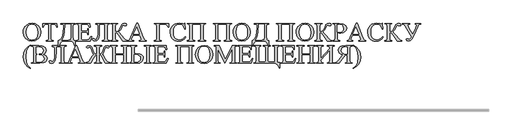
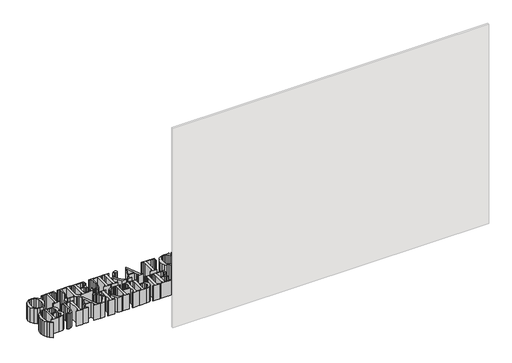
# One storey, part 5 of 17: 1 proxy.
"""IFC4 building model written with IfcOpenShell, lengths in millimetres."""

from ifc_helpers import new_model, si_unit, origin, origin_with_axes, place, context, project, spatial, polyline, outline, extrude, element, save

model = new_model("IFC4")

# Units and contexts
model_context = context("Model", 3, world=origin())
ifc_project = project(units=[si_unit("LENGTHUNIT", "METRE", prefix="MILLI")], contexts=[model_context])

# Site, building, storey
site = spatial("IfcSite", under=ifc_project)
building = spatial("IfcBuilding", under=site)
storey = spatial("IfcBuildingStorey", under=building, Name="Уровень 1", Elevation=0.0)

# Proxy
placement = place(None, origin())
element("IfcBuildingElementProxy", 1, Name="SG_Текст 2", ObjectType="SG_Текст 2", at=placement, inside=storey, context=model_context, shape_type="SweptSolid", body=[
    extrude(outline(polyline([(-694.4542029, -7381.9568321), (-666.748358, -7387.4175486), (-643.0048009, -7403.7996979), (-626.682991, -7428.3477804), (-621.2423877, -7458.3062966), (-626.7232173, -7489.1145927), (-643.165706, -7514.2007017), (-667.3919784, -7530.8694632), (-696.2241589, -7536.425717), (-725.2021597, -7531.0052268), (-749.1418199, -7514.7437563), (-765.2071873, -7489.8738636), (-770.5623098, -7458.6281067), (-769.0161124, -7441.8562654), (-764.3775204, -7426.6985033), (-756.6465337, -7413.1548203), (-745.8231524, -7401.2252165), (-722.2405004, -7386.7739282), (-694.4542029, -7381.9568321)]), holes=[polyline([(-696.5861954, -7389.6802764), (-715.0299411, -7393.3609803), (-729.4108334, -7404.403092), (-740.9658301, -7427.0002003), (-744.8174956, -7458.1051652), (-740.8250381, -7490.1453909), (-728.8476656, -7513.8587783), (-714.6176218, -7524.9913991), (-696.4655165, -7528.7022727), (-676.8552089, -7524.6394193), (-660.9859445, -7512.4508588), (-650.4868875, -7491.5030276), (-646.9872019, -7461.1623619), (-650.8388674, -7428.0159137), (-662.3938641, -7404.5237708), (-677.1166797, -7393.39115), (-696.5861954, -7389.6802764)])]), origin_with_axes(), (0.0, 0.0, 1.0), 150.0),
    extrude(outline(polyline([(-482.2203913, -7384.5313135), (-479.6459099, -7417.9995719), (-483.8294422, -7417.9995719), (-487.2486753, -7404.7249021), (-496.6012836, -7395.2918413), (-512.028059, -7392.2547578), (-533.7100196, -7392.2547578), (-533.7100196, -7508.1064214), (-530.813728, -7526.369149), (-518.1826786, -7531.2767542), (-513.1141683, -7531.2767542), (-513.1141683, -7533.8512356), (-574.9017223, -7533.8512356), (-574.9017223, -7531.2767542), (-569.7527594, -7531.2767542), (-561.8784667, -7529.7582124), (-556.679221, -7525.2025871), (-554.3058709, -7508.1064214), (-554.3058709, -7392.2547578), (-572.1663357, -7392.2547578), (-586.9696039, -7393.7833561), (-596.744588, -7401.8487237), (-601.5717407, -7417.9995719), (-605.7954992, -7417.9995719), (-603.2210178, -7384.5313135), (-482.2203913, -7384.5313135)])), origin_with_axes(), (0.0, 0.0, 1.0), 150.0),
    extrude(outline(polyline([(-448.7521329, -7384.5313135), (-325.1770251, -7384.5313135), (-325.1770251, -7389.6802764), (-342.0921725, -7394.06494), (-345.7728764, -7412.6494777), (-345.7728764, -7494.8719779), (-343.0173767, -7524.3578354), (-337.179539, -7528.5815939), (-325.1770251, -7529.9895135), (-325.1770251, -7577.6174196), (-330.3259879, -7577.6174196), (-340.6038004, -7550.8468355), (-348.1763961, -7542.374177), (-356.6943092, -7537.2704687), (-378.235478, -7533.8512356), (-415.0827432, -7533.8512356), (-436.0506875, -7537.3006384), (-450.6025415, -7547.6488469), (-459.6735658, -7562.0397957), (-464.1990214, -7577.6174196), (-469.3479843, -7577.6174196), (-469.3479843, -7529.9895135), (-453.9966332, -7523.9455161), (-441.813101, -7508.8707206), (-432.837614, -7487.047968), (-427.1103986, -7460.7600992), (-423.0073188, -7413.9769447), (-425.8633841, -7397.8864359), (-432.641511, -7391.4301192), (-448.7521329, -7389.6802764), (-448.7521329, -7384.5313135)]), holes=[polyline([(-410.1349117, -7392.2547578), (-414.0971995, -7448.1743043), (-420.5132899, -7484.4734866), (-429.4636355, -7508.1315628), (-441.0286887, -7526.1277913), (-386.6427688, -7526.1277913), (-369.2449061, -7523.5331968), (-366.3687277, -7506.6180494), (-366.3687277, -7392.2547578), (-410.1349117, -7392.2547578)])]), origin_with_axes(), (0.0, 0.0, 1.0), 150.0),
    extrude(outline(polyline([(-276.2618782, -7392.2547578), (-276.2618782, -7451.4678303), (-240.2191384, -7451.4678303), (-223.3643304, -7447.8072396), (-218.949497, -7441.1598481), (-217.0488056, -7430.871979), (-214.4743242, -7430.871979), (-214.4743242, -7479.7871259), (-217.0488056, -7479.7871259), (-220.1060023, -7466.8342663), (-226.5019796, -7461.2227013), (-240.2191384, -7459.1912746), (-276.2618782, -7459.1912746), (-276.2618782, -7509.1523045), (-275.3366739, -7521.3810912), (-272.098459, -7524.8405506), (-263.3492448, -7526.1277913), (-236.7999052, -7526.1277913), (-217.5114078, -7524.2773828), (-205.9463545, -7516.9562013), (-191.3039915, -7495.2340144), (-186.1550287, -7495.2340144), (-199.7515086, -7533.8512356), (-317.4535808, -7533.8512356), (-317.4535808, -7531.2767542), (-312.3448443, -7531.2767542), (-302.6905389, -7528.6218202), (-298.0846308, -7523.1309341), (-296.8577295, -7508.1064214), (-296.8577295, -7410.2761277), (-299.6333423, -7391.7720425), (-312.3448443, -7387.105795), (-317.4535808, -7387.105795), (-317.4535808, -7384.5313135), (-201.6019172, -7384.5313135), (-199.0274357, -7417.9995719), (-204.1763986, -7417.9995719), (-209.4460402, -7401.0240851), (-218.0142362, -7393.9844875), (-234.0242925, -7392.2547578), (-276.2618782, -7392.2547578)])), origin_with_axes(), (0.0, 0.0, 1.0), 150.0),
    extrude(outline(polyline([(-72.8778464, -7392.2547578), (-119.2185119, -7392.2547578), (-119.2185119, -7434.4521172), (-122.0041812, -7487.1233922), (-130.3611893, -7517.3785771), (-143.6157459, -7531.663932), (-161.0940612, -7536.425717), (-173.926242, -7532.4433161), (-178.4315844, -7523.1912735), (-175.5352928, -7516.2120153), (-168.4956952, -7513.2553843), (-160.5711196, -7516.915975), (-151.5202084, -7520.9788285), (-142.6855134, -7516.9813427), (-135.650944, -7504.9888853), (-131.0500642, -7481.843694), (-129.5164376, -7444.3880064), (-129.5164376, -7412.9310616), (-133.1971414, -7394.1051663), (-150.1122889, -7389.6802764), (-150.1122889, -7384.5313135), (-31.6861438, -7384.5313135), (-31.6861438, -7387.105795), (-48.6012912, -7391.5105717), (-52.2819951, -7410.2761277), (-52.2819951, -7508.1064214), (-48.6012912, -7526.8719774), (-31.6861438, -7531.2767542), (-31.6861438, -7533.8512356), (-93.4736977, -7533.8512356), (-93.4736977, -7531.2767542), (-76.5585503, -7526.8719774), (-72.8778464, -7508.1064214), (-72.8778464, -7392.2547578)])), origin_with_axes(), (0.0, 0.0, 1.0), 150.0),
    extrude(outline(polyline([(121.4150478, -7529.7481558), (121.4150478, -7533.8512356), (82.4357901, -7533.8512356), (55.6450929, -7496.0184267), (30.7450305, -7465.0441971), (17.2290031, -7461.765756), (17.2290031, -7508.1064214), (20.8493676, -7526.8719774), (37.8248544, -7531.2767542), (37.8248544, -7533.8512356), (-23.9626996, -7533.8512356), (-23.9626996, -7531.2767542), (-7.0877784, -7526.9122036), (-3.3668482, -7508.1064214), (-3.3668482, -7410.2761277), (-7.0475521, -7391.5105717), (-23.9626996, -7387.105795), (-23.9626996, -7384.5313135), (37.8248544, -7384.5313135), (37.8248544, -7387.105795), (20.8493676, -7391.5105717), (17.2290031, -7410.2761277), (17.2290031, -7454.0423117), (34.1039242, -7452.4131477), (44.6432075, -7445.4942289), (53.9153632, -7433.8487231), (62.6846905, -7413.3333244), (70.8908501, -7394.7085604), (81.1083232, -7385.7179886), (97.8424524, -7381.9568321), (110.7550857, -7385.0542551), (115.0592968, -7394.3465239), (111.6601768, -7401.9090631), (103.8763932, -7405.1271649), (93.3773362, -7401.0643114), (84.3666512, -7397.4037206), (78.2120316, -7401.1447639), (70.0460983, -7420.2120169), (57.8575379, -7443.5935375), (42.6922333, -7456.5363406), (53.3924217, -7465.3257811), (69.3220254, -7485.0969938), (98.4056202, -7520.6570183), (108.8644509, -7527.3345795), (121.4150478, -7529.7481558)])), origin_with_axes(), (0.0, 0.0, 1.0), 150.0),
    extrude(outline(polyline([(226.6872019, -7484.9360887), (168.4395599, -7484.9360887), (158.8254809, -7507.301896), (155.0844376, -7521.2201861), (158.3427656, -7527.6563897), (172.4219608, -7531.2767542), (172.4219608, -7533.8512356), (124.9549598, -7533.8512356), (124.9549598, -7531.2767542), (137.1032939, -7526.6105066), (149.6136646, -7503.2390425), (201.9882708, -7381.9568321), (207.4992701, -7381.9568321), (256.6557746, -7505.2101298), (268.1202622, -7525.92666), (282.440815, -7531.2767542), (282.440815, -7533.8512356), (223.4288739, -7533.8512356), (223.4288739, -7531.2767542), (235.5168686, -7527.9580867), (238.674631, -7521.059281), (234.2497411, -7503.9228891), (226.6872019, -7484.9360887)]), holes=[polyline([(223.5897789, -7477.2126445), (198.7299428, -7416.5916524), (171.7783405, -7477.2126445), (223.5897789, -7477.2126445)])]), origin_with_axes(), (0.0, 0.0, 1.0), 150.0),
    extrude(outline(polyline([(472.2685931, -7384.5313135), (472.9122134, -7417.9995719), (467.7632506, -7417.9995719), (462.9964374, -7401.6878186), (452.5174935, -7393.9040349), (434.5765761, -7392.2547578), (390.5288082, -7392.2547578), (390.5288082, -7508.1064214), (394.1893989, -7526.8719774), (411.1246595, -7531.2767542), (411.1246595, -7533.8512356), (349.3371055, -7533.8512356), (349.3371055, -7531.2767542), (366.252253, -7526.8719774), (369.9329569, -7508.1064214), (369.9329569, -7410.2761277), (366.252253, -7391.5105717), (349.3371055, -7387.105795), (349.3371055, -7384.5313135), (472.2685931, -7384.5313135)])), origin_with_axes(), (0.0, 0.0, 1.0), 150.0),
    extrude(outline(polyline([(611.9342098, -7381.9568321), (614.5086912, -7433.4464604), (611.9342098, -7433.4464604), (603.8235877, -7413.4188052), (592.8468437, -7399.9178626), (579.2051092, -7392.2396729), (563.0995155, -7389.6802764), (549.2365365, -7391.5357132), (536.7714204, -7397.1020236), (526.2623068, -7406.7362157), (518.2673352, -7420.7952978), (513.2139098, -7439.0529971), (511.5294346, -7461.2830407), (513.1334572, -7479.9078047), (517.945525, -7495.8776347), (525.9857512, -7508.8103812), (537.2742488, -7518.3238945), (551.0919733, -7524.1768171), (566.71988, -7526.1277913), (592.0825445, -7520.4357738), (603.6224563, -7511.9329456), (616.2384209, -7497.8084958), (619.6576541, -7500.3829772), (607.5445179, -7516.57908), (593.5709166, -7527.7569554), (577.2641915, -7534.2585266), (558.151684, -7536.425717), (540.7110809, -7534.7236429), (525.3572157, -7529.6174204), (512.0900883, -7521.1070497), (500.9096988, -7509.1925308), (489.5658901, -7487.1284205), (485.7846205, -7461.4841721), (488.2836777, -7440.2597852), (495.7808491, -7420.8355241), (507.6626842, -7404.3980637), (523.3157324, -7392.134079), (541.668969, -7384.5011438), (561.6513697, -7381.9568321), (593.5105772, -7387.8700941), (600.1076858, -7389.6802764), (605.2968749, -7388.1114518), (609.3597284, -7381.9568321), (611.9342098, -7381.9568321)])), origin_with_axes(), (0.0, 0.0, 1.0), 150.0),
    extrude(outline(polyline([(748.3817248, -7392.2547578), (673.7217638, -7392.2547578), (673.7217638, -7508.1064214), (677.3421282, -7526.8719774), (694.3176151, -7531.2767542), (694.3176151, -7533.8512356), (632.5300611, -7533.8512356), (632.5300611, -7531.2767542), (649.4452085, -7526.8719774), (653.1259124, -7508.1064214), (653.1259124, -7410.2761277), (649.4452085, -7391.5105717), (632.5300611, -7387.105795), (632.5300611, -7384.5313135), (789.5734274, -7384.5313135), (789.5734274, -7387.105795), (772.65828, -7391.5105717), (768.9775761, -7410.2761277), (768.9775761, -7508.1064214), (772.65828, -7526.8719774), (789.5734274, -7531.2767542), (789.5734274, -7533.8512356), (727.7858735, -7533.8512356), (727.7858735, -7531.2767542), (744.6809077, -7526.9122036), (748.3817248, -7508.1064214), (748.3817248, -7392.2547578)])), origin_with_axes(), (0.0, 0.0, 1.0), 150.0),
    extrude(outline(polyline([(969.7871264, -7392.2547578), (895.1271654, -7392.2547578), (895.1271654, -7508.1064214), (898.7475299, -7526.8719774), (915.7230167, -7531.2767542), (915.7230167, -7533.8512356), (853.9354628, -7533.8512356), (853.9354628, -7531.2767542), (870.8506102, -7526.8719774), (874.5313141, -7508.1064214), (874.5313141, -7410.2761277), (870.8506102, -7391.5105717), (853.9354628, -7387.105795), (853.9354628, -7384.5313135), (1010.978829, -7384.5313135), (1010.978829, -7387.105795), (994.0636816, -7391.5105717), (990.3829777, -7410.2761277), (990.3829777, -7508.1064214), (994.0636816, -7526.8719774), (1010.978829, -7531.2767542), (1010.978829, -7533.8512356), (949.1912751, -7533.8512356), (949.1912751, -7531.2767542), (966.0863094, -7526.9122036), (969.7871264, -7508.1064214), (969.7871264, -7392.2547578)])), origin_with_axes(), (0.0, 0.0, 1.0), 150.0),
    extrude(outline(polyline([(1099.9593429, -7381.9568321), (1127.6651878, -7387.4175486), (1151.408745, -7403.7996979), (1167.7305549, -7428.3477804), (1173.1711582, -7458.3062966), (1167.6903286, -7489.1145927), (1151.2478399, -7514.2007017), (1127.0215675, -7530.8694632), (1098.189387, -7536.425717), (1069.2113862, -7531.0052268), (1045.271726, -7514.7437563), (1029.2063586, -7489.8738636), (1023.8512361, -7458.6281067), (1025.3974335, -7441.8562654), (1030.0360255, -7426.6985033), (1037.7670121, -7413.1548203), (1048.5903935, -7401.2252165), (1072.1730455, -7386.7739282), (1099.9593429, -7381.9568321)]), holes=[polyline([(1097.8273505, -7389.6802764), (1079.3836048, -7393.3609803), (1065.0027125, -7404.403092), (1053.4477158, -7427.0002003), (1049.5960503, -7458.1051652), (1053.5885078, -7490.1453909), (1065.5658803, -7513.8587783), (1079.795924, -7524.9913991), (1097.9480293, -7528.7022727), (1117.558337, -7524.6394193), (1133.4276013, -7512.4508588), (1143.9266583, -7491.5030276), (1147.426344, -7461.1623619), (1143.5746785, -7428.0159137), (1132.0196818, -7404.5237708), (1117.2968662, -7393.39115), (1097.8273505, -7389.6802764)])]), origin_with_axes(), (0.0, 0.0, 1.0), 150.0),
    extrude(outline(polyline([(1206.6394165, -7384.5313135), (1330.2145244, -7384.5313135), (1330.2145244, -7389.6802764), (1313.299377, -7394.06494), (1309.6186731, -7412.6494777), (1309.6186731, -7494.8719779), (1312.3741728, -7524.3578354), (1318.2120105, -7528.5815939), (1330.2145244, -7529.9895135), (1330.2145244, -7577.6174196), (1325.0655616, -7577.6174196), (1314.7877491, -7550.8468355), (1307.2151534, -7542.374177), (1298.6972403, -7537.2704687), (1277.1560715, -7533.8512356), (1240.3088063, -7533.8512356), (1219.340862, -7537.3006384), (1204.789008, -7547.6488469), (1195.7179837, -7562.0397957), (1191.1925281, -7577.6174196), (1186.0435652, -7577.6174196), (1186.0435652, -7529.9895135), (1201.3949163, -7523.9455161), (1213.5784485, -7508.8707206), (1222.5539354, -7487.047968), (1228.2811509, -7460.7600992), (1232.3842307, -7413.9769447), (1229.5281654, -7397.8864359), (1222.7500385, -7391.4301192), (1206.6394165, -7389.6802764), (1206.6394165, -7384.5313135)]), holes=[polyline([(1245.2566378, -7392.2547578), (1241.29435, -7448.1743043), (1234.8782596, -7484.4734866), (1225.927914, -7508.1315628), (1214.3628608, -7526.1277913), (1268.7487807, -7526.1277913), (1286.1466434, -7523.5331968), (1289.0228218, -7506.6180494), (1289.0228218, -7392.2547578), (1245.2566378, -7392.2547578)])]), origin_with_axes(), (0.0, 0.0, 1.0), 150.0),
    extrude(outline(polyline([(1510.4282235, -7392.2547578), (1435.7682624, -7392.2547578), (1435.7682624, -7508.1064214), (1439.3886269, -7526.8719774), (1456.3641137, -7531.2767542), (1456.3641137, -7533.8512356), (1394.5765598, -7533.8512356), (1394.5765598, -7531.2767542), (1411.4917072, -7526.8719774), (1415.1724111, -7508.1064214), (1415.1724111, -7410.2761277), (1411.4917072, -7391.5105717), (1394.5765598, -7387.105795), (1394.5765598, -7384.5313135), (1551.6199261, -7384.5313135), (1551.6199261, -7387.105795), (1534.7047787, -7391.5105717), (1531.0240748, -7410.2761277), (1531.0240748, -7508.1064214), (1534.7047787, -7526.8719774), (1551.6199261, -7531.2767542), (1551.6199261, -7533.8512356), (1489.8323721, -7533.8512356), (1489.8323721, -7531.2767542), (1506.7274064, -7526.9122036), (1510.4282235, -7508.1064214), (1510.4282235, -7392.2547578)])), origin_with_axes(), (0.0, 0.0, 1.0), 150.0),
    extrude(outline(polyline([(1640.60044, -7381.9568321), (1668.3062849, -7387.4175486), (1692.049842, -7403.7996979), (1708.3716519, -7428.3477804), (1713.8122552, -7458.3062966), (1708.3314256, -7489.1145927), (1691.8889369, -7514.2007017), (1667.6626645, -7530.8694632), (1638.830484, -7536.425717), (1609.8524832, -7531.0052268), (1585.912823, -7514.7437563), (1569.8474556, -7489.8738636), (1564.4923332, -7458.6281067), (1566.0385305, -7441.8562654), (1570.6771225, -7426.6985033), (1578.4081092, -7413.1548203), (1589.2314905, -7401.2252165), (1612.8141425, -7386.7739282), (1640.60044, -7381.9568321)]), holes=[polyline([(1638.4684475, -7389.6802764), (1620.0247018, -7393.3609803), (1605.6438095, -7404.403092), (1594.0888129, -7427.0002003), (1590.2371473, -7458.1051652), (1594.2296048, -7490.1453909), (1606.2069773, -7513.8587783), (1620.4370211, -7524.9913991), (1638.5891264, -7528.7022727), (1658.199434, -7524.6394193), (1674.0686984, -7512.4508588), (1684.5677554, -7491.5030276), (1688.067441, -7461.1623619), (1684.2157755, -7428.0159137), (1672.6607788, -7404.5237708), (1657.9379632, -7393.39115), (1638.4684475, -7389.6802764)])]), origin_with_axes(), (0.0, 0.0, 1.0), 150.0),
    extrude(outline(polyline([(1869.4879282, -7529.7481558), (1869.4879282, -7533.8512356), (1830.5086706, -7533.8512356), (1803.7179733, -7496.0184267), (1778.8179109, -7465.0441971), (1765.3018835, -7461.765756), (1765.3018835, -7508.1064214), (1768.922248, -7526.8719774), (1785.8977348, -7531.2767542), (1785.8977348, -7533.8512356), (1724.1101809, -7533.8512356), (1724.1101809, -7531.2767542), (1740.985102, -7526.9122036), (1744.7060322, -7508.1064214), (1744.7060322, -7410.2761277), (1741.0253283, -7391.5105717), (1724.1101809, -7387.105795), (1724.1101809, -7384.5313135), (1785.8977348, -7384.5313135), (1785.8977348, -7387.105795), (1768.922248, -7391.5105717), (1765.3018835, -7410.2761277), (1765.3018835, -7454.0423117), (1782.1768046, -7452.4131477), (1792.7160879, -7445.4942289), (1801.9882436, -7433.8487231), (1810.757571, -7413.3333244), (1818.9637305, -7394.7085604), (1829.1812036, -7385.7179886), (1845.9153328, -7381.9568321), (1858.8279661, -7385.0542551), (1863.1321772, -7394.3465239), (1859.7330572, -7401.9090631), (1851.9492736, -7405.1271649), (1841.4502166, -7401.0643114), (1832.4395316, -7397.4037206), (1826.284912, -7401.1447639), (1818.1189788, -7420.2120169), (1805.9304183, -7443.5935375), (1790.7651137, -7456.5363406), (1801.4653021, -7465.3257811), (1817.3949059, -7485.0969938), (1846.4785006, -7520.6570183), (1856.9373313, -7527.3345795), (1869.4879282, -7529.7481558)])), origin_with_axes(), (0.0, 0.0, 1.0), 150.0),
    extrude(outline(polyline([(1917.1962869, -7463.5759382), (1917.1962869, -7508.1064214), (1920.1730311, -7526.2484701), (1932.281139, -7531.2767542), (1937.7921383, -7531.2767542), (1937.7921383, -7533.8512356), (1876.0045843, -7533.8512356), (1876.0045843, -7531.2767542), (1881.435131, -7531.2767542), (1889.259141, -7529.6777598), (1894.4684432, -7524.8807769), (1896.6004356, -7508.1064214), (1896.6004356, -7410.2761277), (1893.7443703, -7392.134079), (1881.435131, -7387.105795), (1876.0045843, -7387.105795), (1876.0045843, -7384.5313135), (1932.9649856, -7384.5313135), (1965.8901893, -7388.6545064), (1976.9876121, -7394.1956754), (1986.1843436, -7402.5727966), (1992.3691329, -7413.2679567), (1994.4307294, -7425.7632424), (1991.1623448, -7442.3213817), (1981.3571909, -7455.4703444), (1965.5884923, -7464.0536252), (1944.4294731, -7466.9147188), (1931.7581974, -7466.0699671), (1917.1962869, -7463.5759382)]), holes=[polyline([(1917.1962869, -7456.9788296), (1928.741227, -7458.6281067), (1937.3496493, -7459.1912746), (1949.2616541, -7456.9587165), (1959.4137595, -7450.2610421), (1966.3678763, -7440.0033428), (1968.6859152, -7427.0907094), (1964.2610253, -7408.9687738), (1951.7305415, -7396.4181769), (1933.2867958, -7392.2547578), (1917.1962869, -7394.3465239), (1917.1962869, -7456.9788296)])]), origin_with_axes(), (0.0, 0.0, 1.0), 150.0),
    extrude(outline(polyline([(2103.484153, -7484.9360887), (2045.236511, -7484.9360887), (2035.622432, -7507.301896), (2031.8813887, -7521.2201861), (2035.1397167, -7527.6563897), (2049.218912, -7531.2767542), (2049.218912, -7533.8512356), (2001.7519109, -7533.8512356), (2001.7519109, -7531.2767542), (2013.9002451, -7526.6105066), (2026.4106157, -7503.2390425), (2078.785222, -7381.9568321), (2084.2962212, -7381.9568321), (2133.4527257, -7505.2101298), (2144.9172133, -7525.92666), (2159.2377662, -7531.2767542), (2159.2377662, -7533.8512356), (2100.225825, -7533.8512356), (2100.225825, -7531.2767542), (2112.3138198, -7527.9580867), (2115.4715821, -7521.059281), (2111.0466922, -7503.9228891), (2103.484153, -7484.9360887)]), holes=[polyline([(2100.3867301, -7477.2126445), (2075.5268939, -7416.5916524), (2048.5752916, -7477.2126445), (2100.3867301, -7477.2126445)])]), origin_with_axes(), (0.0, 0.0, 1.0), 150.0),
    extrude(outline(polyline([(2300.7940177, -7381.9568321), (2303.3684991, -7433.4464604), (2300.7940177, -7433.4464604), (2292.6833956, -7413.4188052), (2281.7066516, -7399.9178626), (2268.0649171, -7392.2396729), (2251.9593234, -7389.6802764), (2238.0963443, -7391.5357132), (2225.6312283, -7397.1020236), (2215.1221147, -7406.7362157), (2207.1271431, -7420.7952978), (2202.0737177, -7439.0529971), (2200.3892425, -7461.2830407), (2201.9932651, -7479.9078047), (2206.8053329, -7495.8776347), (2214.8455591, -7508.8103812), (2226.1340567, -7518.3238945), (2239.9517811, -7524.1768171), (2255.5796878, -7526.1277913), (2280.9423524, -7520.4357738), (2292.4822642, -7511.9329456), (2305.0982288, -7497.8084958), (2308.5174619, -7500.3829772), (2296.4043257, -7516.57908), (2282.4307245, -7527.7569554), (2266.1239994, -7534.2585266), (2247.0114919, -7536.425717), (2229.5708888, -7534.7236429), (2214.2170236, -7529.6174204), (2200.9498962, -7521.1070497), (2189.7695067, -7509.1925308), (2178.425698, -7487.1284205), (2174.6444284, -7461.4841721), (2177.1434855, -7440.2597852), (2184.640657, -7420.8355241), (2196.5224921, -7404.3980637), (2212.1755403, -7392.134079), (2230.5287769, -7384.5011438), (2250.5111776, -7381.9568321), (2282.3703851, -7387.8700941), (2288.9674937, -7389.6802764), (2294.1566828, -7388.1114518), (2298.2195363, -7381.9568321), (2300.7940177, -7381.9568321)])), origin_with_axes(), (0.0, 0.0, 1.0), 150.0),
    extrude(outline(polyline([(2466.7676164, -7529.7481558), (2466.7676164, -7533.8512356), (2427.7883587, -7533.8512356), (2400.9976615, -7496.0184267), (2376.0975991, -7465.0441971), (2362.5815716, -7461.765756), (2362.5815716, -7508.1064214), (2366.2019361, -7526.8719774), (2383.177423, -7531.2767542), (2383.177423, -7533.8512356), (2321.389869, -7533.8512356), (2321.389869, -7531.2767542), (2338.2647902, -7526.9122036), (2341.9857203, -7508.1064214), (2341.9857203, -7410.2761277), (2338.3050164, -7391.5105717), (2321.389869, -7387.105795), (2321.389869, -7384.5313135), (2383.177423, -7384.5313135), (2383.177423, -7387.105795), (2366.2019361, -7391.5105717), (2362.5815716, -7410.2761277), (2362.5815716, -7454.0423117), (2379.4564928, -7452.4131477), (2389.9957761, -7445.4942289), (2399.2679318, -7433.8487231), (2408.0372591, -7413.3333244), (2416.2434186, -7394.7085604), (2426.4608917, -7385.7179886), (2443.1950209, -7381.9568321), (2456.1076543, -7385.0542551), (2460.4118654, -7394.3465239), (2457.0127454, -7401.9090631), (2449.2289617, -7405.1271649), (2438.7299047, -7401.0643114), (2429.7192198, -7397.4037206), (2423.5646001, -7401.1447639), (2415.3986669, -7420.2120169), (2403.2101065, -7443.5935375), (2388.0448019, -7456.5363406), (2398.7449903, -7465.3257811), (2414.674594, -7485.0969938), (2443.7581887, -7520.6570183), (2454.2170195, -7527.3345795), (2466.7676164, -7529.7481558)])), origin_with_axes(), (0.0, 0.0, 1.0), 150.0),
    extrude(outline(polyline([(2473.2842725, -7384.5313135), (2535.0718264, -7384.5313135), (2535.0718264, -7389.6802764), (2521.555799, -7391.9530607), (2517.0504565, -7397.5646257), (2528.9976593, -7423.188761), (2562.1038813, -7480.1491623), (2586.5614547, -7423.188761), (2594.2848989, -7399.4954868), (2591.0667972, -7393.0592832), (2581.4124919, -7389.6802764), (2581.4124919, -7384.5313135), (2627.7531573, -7384.5313135), (2627.7531573, -7389.6802764), (2613.2415297, -7396.0058577), (2602.6921898, -7411.2013319), (2573.6890476, -7478.9423742), (2555.3257544, -7515.7293), (2539.8989791, -7531.4376592), (2522.5614558, -7536.425717), (2509.5080305, -7533.328294), (2504.1780494, -7524.8807769), (2506.9134359, -7518.4043471), (2514.3552963, -7515.8298657), (2525.3370686, -7519.0077412), (2531.8134984, -7520.9788285), (2540.9850884, -7516.1416193), (2551.2025615, -7501.6299916), (2496.7764154, -7408.103909), (2486.3175846, -7394.8895786), (2473.2842725, -7389.6802764), (2473.2842725, -7384.5313135)])), origin_with_axes(), (0.0, 0.0, 1.0), 150.0),
    extrude(outline(polyline([(-708.7747558, -7766.2346408), (-708.7747558, -7771.3836037), (-736.9733725, -7752.1554456), (-751.2536991, -7735.1045345), (-761.8332087, -7715.2478409), (-768.3800345, -7693.5809651), (-770.5623098, -7671.0995073), (-766.2832401, -7639.0995079), (-753.446031, -7610.0360263), (-733.7200728, -7586.3729217), (-708.7747558, -7570.5740533), (-708.7747558, -7575.7230162), (-721.632078, -7584.3364667), (-731.9652017, -7595.6149077), (-739.884749, -7609.9153475), (-745.5013422, -7627.594794), (-749.9664584, -7668.0423106), (-746.1851889, -7709.636276), (-738.964573, -7733.3295503), (-727.5403117, -7750.5061684), (-708.7747558, -7766.2346408)])), origin_with_axes(), (0.0, 0.0, 1.0), 150.0),
    extrude(outline(polyline([(-601.4912881, -7649.6991306), (-587.7741293, -7653.9430023), (-577.9991452, -7660.1579613), (-569.8834948, -7671.2905821), (-567.178278, -7684.655761), (-568.9331491, -7695.4112605), (-574.1977625, -7705.7142145), (-582.5195725, -7714.4282307), (-593.4460337, -7720.4169169), (-630.8162405, -7725.0429382), (-701.0513116, -7725.0429382), (-701.0513116, -7722.4684568), (-695.7012174, -7722.4684568), (-688.028056, -7720.9298019), (-682.8690366, -7716.3138372), (-680.4554602, -7699.2981241), (-680.4554602, -7601.4678303), (-683.5126569, -7583.3257816), (-695.7012174, -7578.2974976), (-701.0513116, -7578.2974976), (-701.0513116, -7575.7230162), (-637.1719915, -7575.7230162), (-608.4906595, -7578.3779501), (-594.0594843, -7583.9442605), (-583.5101445, -7592.5979373), (-577.0538278, -7603.5646247), (-574.9017223, -7616.0699671), (-576.5861974, -7626.8204383), (-581.6396228, -7636.3842345), (-589.9714894, -7644.1981879), (-601.4912881, -7649.6991306)]), holes=[polyline([(-659.8596089, -7714.3829761), (-634.3159261, -7717.319494), (-616.520829, -7715.1020207), (-603.5227149, -7708.449601), (-595.5729978, -7698.5388532), (-592.9230922, -7686.5463958), (-597.7703579, -7670.0335111), (-604.1059958, -7662.9335741), (-613.4183778, -7657.5231405), (-640.1487356, -7652.9574586), (-651.9551465, -7653.1787031), (-659.8596089, -7653.9228891), (-659.8596089, -7714.3829761)]), polyline([(-659.8596089, -7643.6651897), (-650.4466613, -7644.8317516), (-638.8212686, -7645.2340144), (-614.343582, -7641.7343287), (-607.5151724, -7637.3094388), (-603.402036, -7631.0341403), (-600.6465364, -7615.2654416), (-603.2109612, -7603.0416832), (-610.9042358, -7592.7588424), (-623.5151721, -7585.7745559), (-640.8325822, -7583.4464604), (-659.8596089, -7585.900263), (-659.8596089, -7643.6651897)])]), origin_with_axes(), (0.0, 0.0, 1.0), 150.0),
    extrude(outline(polyline([(-443.6031701, -7583.4464604), (-489.9438356, -7583.4464604), (-489.9438356, -7625.6438198), (-492.7295049, -7678.3150949), (-501.0865129, -7708.5702798), (-514.3410696, -7722.8556347), (-531.8193848, -7727.6174196), (-544.6515656, -7723.6350187), (-549.1569081, -7714.3829761), (-546.2606165, -7707.4037179), (-539.2210189, -7704.4470869), (-531.2964433, -7708.1076777), (-522.2455321, -7712.1705311), (-513.4108371, -7708.1730453), (-506.3762677, -7696.180588), (-501.7753879, -7673.0353967), (-500.2417612, -7635.5797091), (-500.2417612, -7604.1227643), (-503.9224651, -7585.2968689), (-520.8376125, -7580.871979), (-520.8376125, -7575.7230162), (-402.4114675, -7575.7230162), (-402.4114675, -7578.2974976), (-419.3266149, -7582.7022744), (-423.0073188, -7601.4678303), (-423.0073188, -7699.2981241), (-419.3266149, -7718.06368), (-402.4114675, -7722.4684568), (-402.4114675, -7725.0429382), (-464.1990214, -7725.0429382), (-464.1990214, -7722.4684568), (-447.283874, -7718.06368), (-443.6031701, -7699.2981241), (-443.6031701, -7583.4464604)])), origin_with_axes(), (0.0, 0.0, 1.0), 150.0),
    extrude(outline(polyline([(-295.9325252, -7676.1277913), (-354.1801672, -7676.1277913), (-363.7942463, -7698.4935986), (-367.5352896, -7712.4118888), (-364.2769615, -7718.8480923), (-350.1977663, -7722.4684568), (-350.1977663, -7725.0429382), (-397.6647674, -7725.0429382), (-397.6647674, -7722.4684568), (-385.5164332, -7717.8022092), (-373.0060626, -7694.4307451), (-320.6314563, -7573.1485348), (-315.120457, -7573.1485348), (-265.9639525, -7696.4018325), (-254.499465, -7717.1183626), (-240.1789121, -7722.4684568), (-240.1789121, -7725.0429382), (-299.1908533, -7725.0429382), (-299.1908533, -7722.4684568), (-287.1028585, -7719.1497893), (-283.9450961, -7712.2509837), (-288.3699861, -7695.1145918), (-295.9325252, -7676.1277913)]), holes=[polyline([(-299.0299482, -7668.4043471), (-323.8897843, -7607.783355), (-350.8413867, -7668.4043471), (-299.0299482, -7668.4043471)])]), origin_with_axes(), (0.0, 0.0, 1.0), 150.0),
    extrude(outline(polyline([(-162.9846959, -7725.0429382), (-162.9846959, -7722.4684568), (-146.0494354, -7718.06368), (-142.3888446, -7699.2981241), (-142.3888446, -7652.9574586), (-145.5264938, -7652.8770061), (-152.344847, -7654.2648124), (-156.6490581, -7657.9254032), (-171.4724394, -7684.1730458), (-193.7175678, -7725.0429382), (-232.4956941, -7725.0429382), (-232.4956941, -7719.8939754), (-217.8734442, -7716.3037806), (-207.5554054, -7708.4294878), (-180.8451608, -7665.0253402), (-167.3291333, -7649.0957365), (-177.5063802, -7637.3697782), (-186.6779702, -7611.2428144), (-193.5566627, -7592.2761271), (-199.7515086, -7588.5954232), (-209.3655877, -7592.5375979), (-219.0601192, -7596.3188675), (-226.8439029, -7593.4628022), (-229.9212127, -7586.3829783), (-225.234852, -7577.1912751), (-211.3769013, -7573.1485348), (-195.3065056, -7577.7946692), (-185.1895981, -7588.6758758), (-176.7018547, -7612.811639), (-169.1594287, -7634.5740523), (-161.657229, -7643.0014563), (-149.2273109, -7645.8776347), (-142.3888446, -7645.2340144), (-142.3888446, -7601.4678303), (-146.0494354, -7582.7022744), (-162.9846959, -7578.2974976), (-162.9846959, -7575.7230162), (-101.197142, -7575.7230162), (-101.197142, -7578.2974976), (-118.1525157, -7582.7022744), (-121.7929933, -7601.4678303), (-121.7929933, -7645.2340144), (-115.9601839, -7645.8776347), (-102.7458535, -7643.0014563), (-95.3039931, -7634.7550705), (-87.600662, -7612.811639), (-79.1933712, -7588.856894), (-69.0563506, -7577.915348), (-52.8853892, -7573.1485348), (-39.1883435, -7577.03037), (-34.2606252, -7586.3829783), (-37.2775956, -7593.4628022), (-45.1217187, -7596.3188675), (-54.8967028, -7592.5375979), (-64.7521395, -7588.5954232), (-70.8061934, -7592.4973716), (-77.6245465, -7611.2428144), (-86.8765891, -7637.4301176), (-97.0136097, -7649.0957365), (-87.1782862, -7657.5030273), (-71.5906057, -7685.983228), (-52.1412032, -7713.2365273), (-31.6861438, -7719.8939754), (-31.6861438, -7725.0429382), (-70.5849489, -7725.0429382), (-87.8420197, -7693.223957), (-105.3002217, -7661.4049757), (-109.9061299, -7655.6526188), (-118.8967017, -7652.8770061), (-121.7929933, -7652.9574586), (-121.7929933, -7699.2981241), (-118.1525157, -7718.06368), (-101.197142, -7722.4684568), (-101.197142, -7725.0429382), (-162.9846959, -7725.0429382)])), origin_with_axes(), (0.0, 0.0, 1.0), 150.0),
    extrude(outline(polyline([(14.6545217, -7645.2340144), (89.3144827, -7645.2340144), (89.3144827, -7601.4678303), (87.9467894, -7585.900263), (83.4816732, -7581.0328841), (73.8273679, -7578.2974976), (68.7186314, -7578.2974976), (68.7186314, -7575.7230162), (130.5061853, -7575.7230162), (130.5061853, -7578.2974976), (125.3974488, -7578.2974976), (115.7431434, -7580.9122053), (111.1372353, -7586.4232045), (109.910334, -7601.4678303), (109.910334, -7699.2981241), (111.2780272, -7714.8254651), (115.6626909, -7719.7330703), (125.3974488, -7722.4684568), (130.5061853, -7722.4684568), (130.5061853, -7725.0429382), (68.7186314, -7725.0429382), (68.7186314, -7722.4684568), (73.8273679, -7722.4684568), (81.4401899, -7721.0705938), (86.6595487, -7716.877005), (89.3144827, -7699.2981241), (89.3144827, -7652.9574586), (14.6545217, -7652.9574586), (14.6545217, -7699.2981241), (16.0222149, -7714.8254651), (20.4471048, -7719.7330703), (30.0611839, -7722.4684568), (35.250373, -7722.4684568), (35.250373, -7725.0429382), (-26.537181, -7725.0429382), (-26.537181, -7722.4684568), (-21.4284444, -7722.4684568), (-13.7452264, -7721.0705938), (-8.4755848, -7716.877005), (-5.9413297, -7699.2981241), (-5.9413297, -7601.4678303), (-7.3090229, -7585.900263), (-11.6936866, -7581.0328841), (-21.4284444, -7578.2974976), (-26.537181, -7578.2974976), (-26.537181, -7575.7230162), (35.250373, -7575.7230162), (35.250373, -7578.2974976), (30.0611839, -7578.2974976), (20.4471048, -7580.9122053), (15.9216492, -7586.4232045), (14.6545217, -7601.4678303), (14.6545217, -7645.2340144)])), origin_with_axes(), (0.0, 0.0, 1.0), 150.0),
    extrude(outline(polyline([(326.1667728, -7722.4684568), (326.1667728, -7725.0429382), (264.3792189, -7725.0429382), (264.3792189, -7722.4684568), (268.6432037, -7722.4684568), (278.599206, -7720.1956724), (283.7481689, -7714.2622973), (284.9750702, -7699.2981241), (284.9750702, -7601.0655676), (283.6476032, -7586.2622995), (278.438301, -7580.3088112), (267.6777732, -7578.2974976), (264.3792189, -7578.2974976), (264.3792189, -7575.7230162), (326.1667728, -7575.7230162), (326.1667728, -7578.2974976), (322.9888973, -7578.2974976), (312.3691615, -7580.3490375), (306.9989541, -7586.342752), (305.5709215, -7601.4678303), (305.5709215, -7699.2981241), (308.8694758, -7717.7820961), (314.0486083, -7721.2968666), (322.9888973, -7722.4684568), (326.1667728, -7722.4684568)])), origin_with_axes(), (0.0, 0.0, 1.0), 150.0),
    extrude(outline(polyline([(179.4213322, -7642.6595329), (185.5357255, -7642.6595329), (226.848107, -7646.1391055), (238.8204512, -7651.212644), (248.3490494, -7659.4741147), (254.5790933, -7670.315095), (256.6557746, -7683.1271627), (253.5633799, -7698.8003239), (244.2861959, -7712.4320019), (227.4364162, -7721.8902041), (201.6262344, -7725.0429382), (138.2296296, -7725.0429382), (138.2296296, -7722.4684568), (155.144777, -7718.06368), (158.8254809, -7699.2981241), (158.8254809, -7601.4678303), (155.144777, -7582.7022744), (138.2296296, -7578.2974976), (138.2296296, -7575.7230162), (200.0171835, -7575.7230162), (200.0171835, -7578.2974976), (183.1020361, -7582.7022744), (179.4213322, -7601.4678303), (179.4213322, -7642.6595329)]), holes=[polyline([(179.4213322, -7715.7506694), (194.7877681, -7717.319494), (207.9266742, -7715.0467096), (219.74817, -7708.2283565), (228.1202628, -7697.3974327), (230.9109605, -7683.0869364), (227.9945557, -7668.5903936), (219.2453416, -7658.4081185), (206.010898, -7652.3892625), (189.6388053, -7650.3829772), (179.4213322, -7651.2679552), (179.4213322, -7715.7506694)])]), origin_with_axes(), (0.0, 0.0, 1.0), 150.0),
    extrude(outline(polyline([(377.6564011, -7583.4464604), (377.6564011, -7642.6595329), (413.6991409, -7642.6595329), (430.5539489, -7638.9989422), (434.9687823, -7632.3515507), (436.8694736, -7622.0636816), (439.443955, -7622.0636816), (439.443955, -7670.9788285), (436.8694736, -7670.9788285), (433.8122769, -7658.0259689), (427.4162997, -7652.4144039), (413.6991409, -7650.3829772), (377.6564011, -7650.3829772), (377.6564011, -7700.3440071), (378.5816054, -7712.5727939), (381.8198203, -7716.0322533), (390.5690344, -7717.319494), (417.118374, -7717.319494), (436.4068715, -7715.4690854), (447.9719247, -7708.1479039), (462.6142878, -7686.425717), (467.7632506, -7686.425717), (454.1667706, -7725.0429382), (336.4646985, -7725.0429382), (336.4646985, -7722.4684568), (341.573435, -7722.4684568), (351.2277403, -7719.8135228), (355.8336485, -7714.3226367), (357.0605498, -7699.2981241), (357.0605498, -7601.4678303), (354.284937, -7582.9637451), (341.573435, -7578.2974976), (336.4646985, -7578.2974976), (336.4646985, -7575.7230162), (452.3163621, -7575.7230162), (454.8908435, -7609.1912746), (449.7418807, -7609.1912746), (444.4722391, -7592.2157877), (435.9040431, -7585.1761901), (419.8939868, -7583.4464604), (377.6564011, -7583.4464604)])), origin_with_axes(), (0.0, 0.0, 1.0), 150.0),
    extrude(outline(polyline([(647.9769496, -7583.4464604), (573.3169886, -7583.4464604), (573.3169886, -7699.2981241), (576.9373531, -7718.06368), (593.9128399, -7722.4684568), (593.9128399, -7725.0429382), (532.125286, -7725.0429382), (532.125286, -7722.4684568), (549.0404334, -7718.06368), (552.7211373, -7699.2981241), (552.7211373, -7601.4678303), (549.0404334, -7582.7022744), (532.125286, -7578.2974976), (532.125286, -7575.7230162), (689.1686522, -7575.7230162), (689.1686522, -7578.2974976), (672.2535048, -7582.7022744), (668.5728009, -7601.4678303), (668.5728009, -7699.2981241), (672.2535048, -7718.06368), (689.1686522, -7722.4684568), (689.1686522, -7725.0429382), (627.3810983, -7725.0429382), (627.3810983, -7722.4684568), (644.2761326, -7718.1039063), (647.9769496, -7699.2981241), (647.9769496, -7583.4464604)])), origin_with_axes(), (0.0, 0.0, 1.0), 150.0),
    extrude(outline(polyline([(778.1491661, -7573.1485348), (805.855011, -7578.6092512), (829.5985681, -7594.9914005), (845.9203781, -7619.5394831), (851.3609814, -7649.4979992), (845.8801518, -7680.3062953), (829.4376631, -7705.3924043), (805.2113907, -7722.0611658), (776.3792102, -7727.6174196), (747.4012094, -7722.1969295), (723.4615492, -7705.935459), (707.3961818, -7681.0655662), (702.0410593, -7649.8198094), (703.5872566, -7633.0479681), (708.2258487, -7617.8902059), (715.9568353, -7604.3465229), (726.7802167, -7592.4169191), (750.3628687, -7577.9656308), (778.1491661, -7573.1485348)]), holes=[polyline([(776.0171737, -7580.871979), (757.573428, -7584.5526829), (743.1925357, -7595.5947946), (731.637539, -7618.1919029), (727.7858735, -7649.2968678), (731.778331, -7681.3370936), (743.7557035, -7705.050481), (757.9857472, -7716.1831018), (776.1378525, -7719.8939754), (795.7481602, -7715.8311219), (811.6174245, -7703.6425614), (822.1164815, -7682.6947303), (825.6161672, -7652.3540645), (821.7645017, -7619.2076163), (810.209505, -7595.7154734), (795.4866894, -7584.5828526), (776.0171737, -7580.871979)])]), origin_with_axes(), (0.0, 0.0, 1.0), 150.0),
    extrude(outline(polyline([(951.7657565, -7725.0429382), (892.552684, -7599.4162904), (892.552684, -7699.2981241), (895.4489756, -7717.5608516), (907.9995725, -7722.4684568), (913.1485353, -7722.4684568), (913.1485353, -7725.0429382), (861.658907, -7725.0429382), (861.658907, -7722.4684568), (866.8078698, -7722.4684568), (874.6821626, -7720.949915), (879.8814083, -7716.3942897), (882.2547583, -7699.2981241), (882.2547583, -7601.4678303), (880.1227659, -7586.2622995), (874.5715404, -7580.570282), (861.658907, -7578.2974976), (861.658907, -7575.7230162), (903.936719, -7575.7230162), (959.0467118, -7692.8619205), (1016.6507334, -7575.7230162), (1057.3194945, -7575.7230162), (1057.3194945, -7578.2974976), (1052.2912105, -7578.2974976), (1044.3264086, -7579.8160394), (1039.0969932, -7584.3716647), (1036.7236432, -7601.4678303), (1036.7236432, -7699.2981241), (1039.7406136, -7717.5608516), (1052.2912105, -7722.4684568), (1057.3194945, -7722.4684568), (1057.3194945, -7725.0429382), (995.5319406, -7725.0429382), (995.5319406, -7722.4684568), (1000.6809034, -7722.4684568), (1008.6155356, -7720.949915), (1013.7544418, -7716.3942897), (1016.1277919, -7699.2981241), (1016.1277919, -7599.4162904), (954.3402379, -7725.0429382), (951.7657565, -7725.0429382)])), origin_with_axes(), (0.0, 0.0, 1.0), 150.0),
    extrude(outline(polyline([(1103.66016, -7583.4464604), (1103.66016, -7642.6595329), (1139.7028998, -7642.6595329), (1156.5577078, -7638.9989422), (1160.9725411, -7632.3515507), (1162.8732325, -7622.0636816), (1165.4477139, -7622.0636816), (1165.4477139, -7670.9788285), (1162.8732325, -7670.9788285), (1159.8160358, -7658.0259689), (1153.4200586, -7652.4144039), (1139.7028998, -7650.3829772), (1103.66016, -7650.3829772), (1103.66016, -7700.3440071), (1104.5853642, -7712.5727939), (1107.8235791, -7716.0322533), (1116.5727933, -7717.319494), (1143.1221329, -7717.319494), (1162.4106304, -7715.4690854), (1173.9756836, -7708.1479039), (1188.6180466, -7686.425717), (1193.7670095, -7686.425717), (1180.1705295, -7725.0429382), (1062.4684573, -7725.0429382), (1062.4684573, -7722.4684568), (1067.5771939, -7722.4684568), (1077.2314992, -7719.8135228), (1081.8374074, -7714.3226367), (1083.0643087, -7699.2981241), (1083.0643087, -7601.4678303), (1080.2886959, -7582.9637451), (1067.5771939, -7578.2974976), (1062.4684573, -7578.2974976), (1062.4684573, -7575.7230162), (1178.320121, -7575.7230162), (1180.8946024, -7609.1912746), (1175.7456396, -7609.1912746), (1170.4759979, -7592.2157877), (1161.907802, -7585.1761901), (1145.8977457, -7583.4464604), (1103.66016, -7583.4464604)])), origin_with_axes(), (0.0, 0.0, 1.0), 150.0),
    extrude(outline(polyline([(1201.4904537, -7725.0429382), (1201.4904537, -7722.4684568), (1205.8348911, -7722.0259678), (1218.5061668, -7717.8625486), (1222.086305, -7699.2981241), (1222.086305, -7601.4678303), (1218.2648092, -7582.9838583), (1201.4904537, -7578.2974976), (1201.4904537, -7575.7230162), (1260.7035263, -7575.7230162), (1260.7035263, -7578.2974976), (1245.9203713, -7583.526913), (1242.6821563, -7601.4678303), (1242.6821563, -7697.8499783), (1243.5470212, -7712.4320019), (1246.4231997, -7716.4144028), (1255.7154685, -7717.319494), (1286.2069828, -7717.319494), (1299.8235759, -7715.5294249), (1301.8952289, -7697.8499783), (1301.8952289, -7601.4678303), (1298.7374665, -7583.687818), (1283.873859, -7578.2974976), (1283.873859, -7575.7230162), (1340.5124501, -7575.7230162), (1340.5124501, -7578.2974976), (1325.6689557, -7583.6475918), (1322.4910802, -7601.4678303), (1322.4910802, -7697.8499783), (1324.4621675, -7714.966257), (1339.3458882, -7717.319494), (1370.4005703, -7717.319494), (1378.7072955, -7716.2534978), (1381.1812112, -7713.0555091), (1381.7041527, -7697.8499783), (1381.7041527, -7601.4678303), (1378.486051, -7583.5872524), (1363.6827828, -7578.2974976), (1363.6827828, -7575.7230162), (1420.3213739, -7575.7230162), (1420.3213739, -7578.2974976), (1408.6356419, -7580.7110739), (1403.5067922, -7586.9461461), (1402.300004, -7601.4678303), (1402.300004, -7697.5683944), (1403.3660003, -7712.5526807), (1407.9517953, -7718.4056033), (1422.8958554, -7721.1409898), (1422.8958554, -7768.8091223), (1417.7468925, -7768.8091223), (1405.7996897, -7740.9122025), (1388.8845423, -7728.4018319), (1360.4646811, -7725.0429382), (1201.4904537, -7725.0429382)])), origin_with_axes(), (0.0, 0.0, 1.0), 150.0),
    extrude(outline(polyline([(1471.8110022, -7583.4464604), (1471.8110022, -7642.6595329), (1507.853742, -7642.6595329), (1524.70855, -7638.9989422), (1529.1233834, -7632.3515507), (1531.0240748, -7622.0636816), (1533.5985562, -7622.0636816), (1533.5985562, -7670.9788285), (1531.0240748, -7670.9788285), (1527.9668781, -7658.0259689), (1521.5709008, -7652.4144039), (1507.853742, -7650.3829772), (1471.8110022, -7650.3829772), (1471.8110022, -7700.3440071), (1472.7362065, -7712.5727939), (1475.9744214, -7716.0322533), (1484.7236356, -7717.319494), (1511.2729752, -7717.319494), (1530.5614726, -7715.4690854), (1542.1265259, -7708.1479039), (1556.7688889, -7686.425717), (1561.9178517, -7686.425717), (1548.3213718, -7725.0429382), (1430.6192996, -7725.0429382), (1430.6192996, -7722.4684568), (1435.7280362, -7722.4684568), (1445.3823415, -7719.8135228), (1449.9882496, -7714.3226367), (1451.2151509, -7699.2981241), (1451.2151509, -7601.4678303), (1448.4395381, -7582.9637451), (1435.7280362, -7578.2974976), (1430.6192996, -7578.2974976), (1430.6192996, -7575.7230162), (1546.4709633, -7575.7230162), (1549.0454447, -7609.1912746), (1543.8964818, -7609.1912746), (1538.6268402, -7592.2157877), (1530.0586442, -7585.1761901), (1514.0485879, -7583.4464604), (1471.8110022, -7583.4464604)])), origin_with_axes(), (0.0, 0.0, 1.0), 150.0),
    extrude(outline(polyline([(1610.8329986, -7645.2340144), (1685.4929596, -7645.2340144), (1685.4929596, -7601.4678303), (1684.1252664, -7585.900263), (1679.6601502, -7581.0328841), (1670.0058449, -7578.2974976), (1664.8971083, -7578.2974976), (1664.8971083, -7575.7230162), (1726.6846623, -7575.7230162), (1726.6846623, -7578.2974976), (1721.5759257, -7578.2974976), (1711.9216204, -7580.9122053), (1707.3157123, -7586.4232045), (1706.088811, -7601.4678303), (1706.088811, -7699.2981241), (1707.4565042, -7714.8254651), (1711.8411679, -7719.7330703), (1721.5759257, -7722.4684568), (1726.6846623, -7722.4684568), (1726.6846623, -7725.0429382), (1664.8971083, -7725.0429382), (1664.8971083, -7722.4684568), (1670.0058449, -7722.4684568), (1677.6186669, -7721.0705938), (1682.8380257, -7716.877005), (1685.4929596, -7699.2981241), (1685.4929596, -7652.9574586), (1610.8329986, -7652.9574586), (1610.8329986, -7699.2981241), (1612.2006919, -7714.8254651), (1616.6255818, -7719.7330703), (1626.2396608, -7722.4684568), (1631.4288499, -7722.4684568), (1631.4288499, -7725.0429382), (1569.641296, -7725.0429382), (1569.641296, -7722.4684568), (1574.7500325, -7722.4684568), (1582.4332505, -7721.0705938), (1587.7028922, -7716.877005), (1590.2371473, -7699.2981241), (1590.2371473, -7601.4678303), (1588.869454, -7585.900263), (1584.4847904, -7581.0328841), (1574.7500325, -7578.2974976), (1569.641296, -7578.2974976), (1569.641296, -7575.7230162), (1631.4288499, -7575.7230162), (1631.4288499, -7578.2974976), (1626.2396608, -7578.2974976), (1616.6255818, -7580.9122053), (1612.1001262, -7586.4232045), (1610.8329986, -7601.4678303), (1610.8329986, -7645.2340144)])), origin_with_axes(), (0.0, 0.0, 1.0), 150.0),
    extrude(outline(polyline([(1850.2597702, -7601.4678303), (1846.1768035, -7582.3201248), (1829.6639188, -7578.2974976), (1829.6639188, -7575.7230162), (1891.4514728, -7575.7230162), (1891.4514728, -7578.2974976), (1874.5363254, -7582.7022744), (1870.8556215, -7601.4678303), (1870.8556215, -7699.2981241), (1874.5363254, -7718.06368), (1891.4514728, -7722.4684568), (1891.4514728, -7725.0429382), (1829.6639188, -7725.0429382), (1829.6639188, -7722.4684568), (1846.6394057, -7718.0033406), (1850.2597702, -7699.2981241), (1850.2597702, -7614.3402374), (1775.5998091, -7699.2981241), (1776.8065973, -7714.1215053), (1781.9153339, -7720.0548805), (1796.1956605, -7722.4684568), (1796.1956605, -7725.0429382), (1734.4081065, -7725.0429382), (1734.4081065, -7722.4684568), (1751.3232539, -7718.06368), (1755.0039578, -7699.2981241), (1755.0039578, -7601.4678303), (1751.3232539, -7582.7022744), (1734.4081065, -7578.2974976), (1734.4081065, -7575.7230162), (1796.1956605, -7575.7230162), (1796.1956605, -7578.2974976), (1779.2603999, -7582.7022744), (1775.5998091, -7601.4678303), (1775.5998091, -7686.425717), (1850.2597702, -7601.4678303)])), origin_with_axes(), (0.0, 0.0, 1.0), 150.0),
    extrude(outline(polyline([(1892.0950931, -7725.0429382), (1892.0950931, -7722.4684568), (1912.0070978, -7715.7707825), (1930.2698254, -7694.551424), (1961.7267702, -7651.5093128), (1945.3597057, -7645.8977478), (1933.910303, -7637.349665), (1927.1673741, -7626.4382887), (1924.9197312, -7613.7368433), (1926.9209882, -7601.8751213), (1932.9247593, -7591.7934119), (1941.7946523, -7584.0397979), (1952.394275, -7579.1623624), (1988.0347521, -7575.7230162), (2043.3458762, -7575.7230162), (2043.3458762, -7578.2974976), (2037.9555558, -7578.2974976), (2025.7267691, -7583.3257816), (2022.7500249, -7601.4678303), (2022.7500249, -7699.2981241), (2024.9624699, -7716.0724795), (2030.1617156, -7720.8694625), (2037.9555558, -7722.4684568), (2043.3458762, -7722.4684568), (2043.3458762, -7725.0429382), (1981.5583223, -7725.0429382), (1981.5583223, -7722.4684568), (1987.1497741, -7722.4684568), (1999.1774295, -7717.4401728), (2002.1541736, -7699.2981241), (2002.1541736, -7655.53194), (1998.2522252, -7655.7129582), (1994.7123133, -7655.7732976), (1984.2534825, -7655.53194), (1932.723628, -7725.0429382), (1892.0950931, -7725.0429382)]), holes=[polyline([(2002.1541736, -7647.8084958), (2002.1541736, -7586.0209418), (1984.0523512, -7583.4464604), (1970.4508429, -7585.6387922), (1959.8160222, -7592.2157877), (1952.9524145, -7602.3025255), (1950.6645453, -7615.024084), (1953.5004975, -7628.1127073), (1962.0083541, -7638.6570189), (1976.1076624, -7645.6111357), (1995.7179701, -7647.9291746), (1998.3527909, -7647.8688352), (2002.1541736, -7647.8084958)])]), origin_with_axes(), (0.0, 0.0, 1.0), 150.0),
    extrude(outline(polyline([(2053.6438019, -7575.7230162), (2053.6438019, -7570.5740533), (2081.9630975, -7589.6815326), (2096.1529149, -7606.8128962), (2106.7022548, -7626.6695898), (2113.2490806, -7648.326409), (2115.4313558, -7670.8581497), (2111.1623427, -7702.8581491), (2098.3553033, -7731.9216307), (2078.6394017, -7755.5847353), (2053.6438019, -7771.3836037), (2053.6438019, -7766.2346408), (2066.5111807, -7757.5709075), (2076.874474, -7746.302523), (2084.8141345, -7732.0171681), (2090.4106146, -7714.3025236), (2094.8355045, -7673.7946675), (2091.054235, -7632.2007022), (2083.8939585, -7608.5677673), (2072.4696972, -7591.4514886), (2053.6438019, -7575.7230162)])), origin_with_axes(), (0.0, 0.0, 1.0), 150.0),
])

save(model, "model.ifc")
